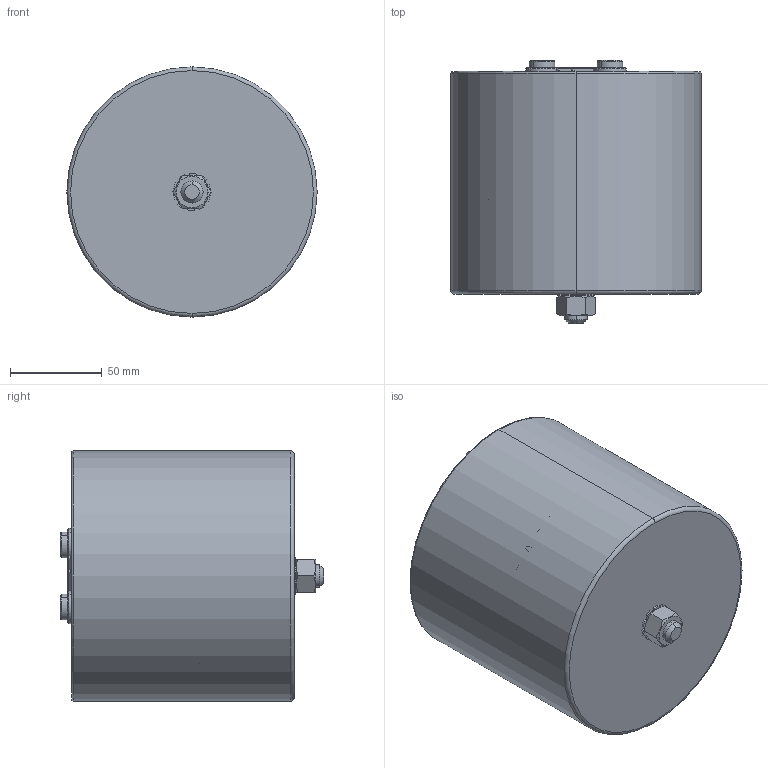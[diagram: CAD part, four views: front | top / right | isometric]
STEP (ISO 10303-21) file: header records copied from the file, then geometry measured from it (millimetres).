
FILE_DESCRIPTION (( 'STEP AP203' ), '1' );
FILE_NAME ('B25690Cx_136x121_127 .STEP', '2021-09-07T06:21:46', ( '' ), ( '' ), 'SwSTEP 2.0', 'SolidWorks 2017', '' );
FILE_SCHEMA (( 'CONFIG_CONTROL_DESIGN' ));
Length unit declared in the file: millimetre
Products named in the file (1): B25690Cx_136x121_127 
Bounding box: 136 x 143 x 136 mm (x, y, z)
Volume: 265384.4 mm3; surface area: 163935.7 mm2
Topology: 1 solids, 3 shells, 295 faces, 753 edges, 470 vertices
Faces by surface type: plane 144, cylinder 97, cone 38, torus 8, sphere 8
Entity records: 9246 total; most frequent: CARTESIAN_POINT 2131, DIRECTION 1509, ORIENTED_EDGE 1490, EDGE_CURVE 745, AXIS2_PLACEMENT_3D 592, VERTEX_POINT 470, LINE 325, VECTOR 325
